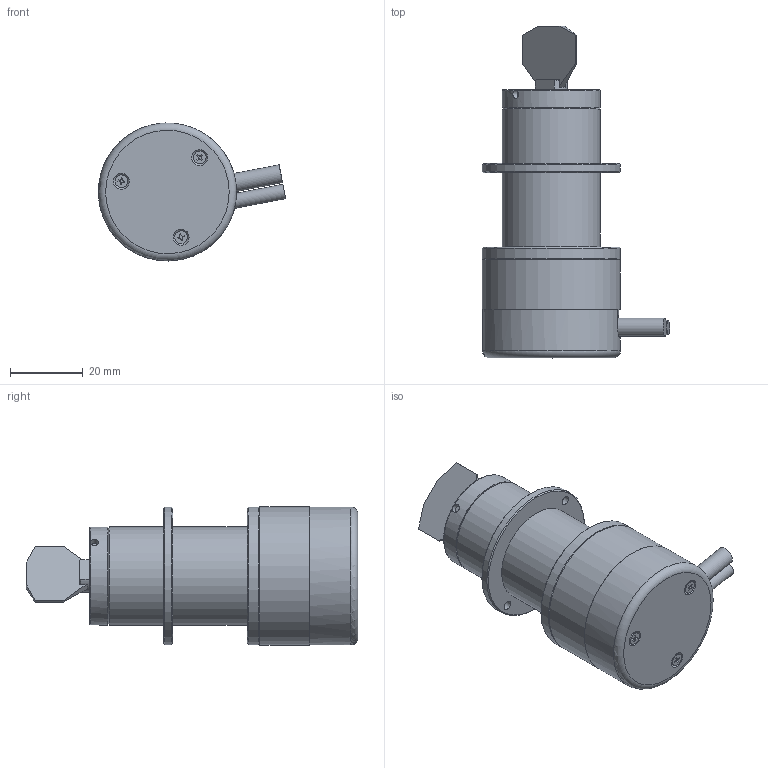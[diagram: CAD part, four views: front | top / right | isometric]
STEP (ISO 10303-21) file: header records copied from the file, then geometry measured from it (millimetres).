
FILE_DESCRIPTION (( 'STEP AP203' ), '1' );
FILE_NAME ('OD15_12mmX.STEP', '2025-03-19T08:19:50', ( 'zouluheng@hotmail.com' ), ( '' ), 'SwSTEP 2.0', 'SolidWorks 2023', '' );
FILE_SCHEMA (( 'CONFIG_CONTROL_DESIGN' ));
Length unit declared in the file: millimetre
Products named in the file (1): OD15_12mmX
Bounding box: 51.52 x 91.35 x 37.99 mm (x, y, z)
Surface area: 15713.9 mm2 (no closed solid volume)
Topology: 0 solids, 22 shells, 176 faces, 540 edges, 379 vertices
Faces by surface type: plane 106, cylinder 51, cone 14, torus 3, sphere 2
Full cylindrical faces by diameter (mm): 1 x2, 1.2 x1, 2.3 x2, 2.5 x2, 2.7 x1, 3.5 x3, 4 x1, 4.5 x2, 5 x1, 12 x2, 27 x3, 35.4 x1, 37 x1, 38 x4
Entity records: 6130 total; most frequent: CARTESIAN_POINT 1323, DIRECTION 1000, ORIENTED_EDGE 832, EDGE_CURVE 493, AXIS2_PLACEMENT_3D 376, VERTEX_POINT 371, EDGE_LOOP 278, LINE 248
